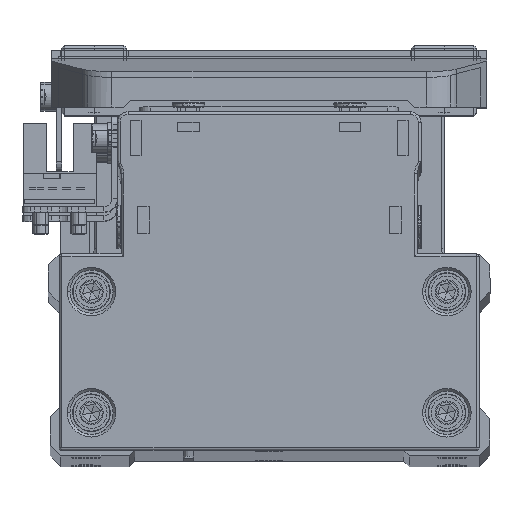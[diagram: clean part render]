
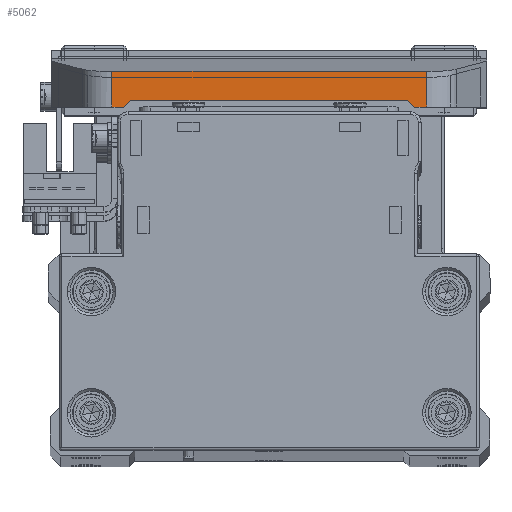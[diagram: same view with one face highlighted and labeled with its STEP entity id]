
A CAD part, top view. The second image highlights one B-rep face of the part: STEP entity #5062.
In plain terms, the highlighted planar face has unit normal (0, 0, 1) as drawn and (-1, 0, 0) by its records, which use the part's own axes.
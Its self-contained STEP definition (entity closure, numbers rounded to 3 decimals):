
#249 = EDGE_CURVE ( 'NONE', #19063, #14408, #1782, .T. ) ;
#1245 = CARTESIAN_POINT ( 'NONE',  ( -67.5, 4., 29.225 ) ) ;
#1666 = VERTEX_POINT ( 'NONE', #17723 ) ;
#1782 = LINE ( 'NONE', #13969, #19602 ) ;
#2081 = VECTOR ( 'NONE', #28735, 1000. ) ;
#2102 = LINE ( 'NONE', #14292, #14177 ) ;
#2899 = CARTESIAN_POINT ( 'NONE',  ( -67.5, 4., -29.225 ) ) ;
#4369 = LINE ( 'NONE', #16549, #2081 ) ;
#4572 = CARTESIAN_POINT ( 'NONE',  ( -67.5, 4., -29.225 ) ) ;
#4576 = EDGE_CURVE ( 'NONE', #1666, #5985, #21783, .T. ) ;
#4934 = VERTEX_POINT ( 'NONE', #36536 ) ;
#4979 = CARTESIAN_POINT ( 'NONE',  ( -67.5, 9.3, 25.5 ) ) ;
#5062 = ADVANCED_FACE ( 'NONE', ( #12770 ), #24950, .F. ) ;
#5168 = DIRECTION ( 'NONE',  ( 0., 0., -1. ) ) ;
#5974 = ORIENTED_EDGE ( 'NONE', *, *, #17529, .F. ) ;
#5985 = VERTEX_POINT ( 'NONE', #21639 ) ;
#6439 = EDGE_LOOP ( 'NONE', ( #38646, #38848, #34826, #38998, #5974, #29826, #8948, #28392 ) ) ;
#6628 = DIRECTION ( 'NONE',  ( 0., 0.655, -0.756 ) ) ;
#8948 = ORIENTED_EDGE ( 'NONE', *, *, #249, .T. ) ;
#9387 = EDGE_CURVE ( 'NONE', #14408, #4934, #4369, .T. ) ;
#9775 = CARTESIAN_POINT ( 'NONE',  ( -67.5, 10.6, 29.225 ) ) ;
#9780 = DIRECTION ( 'NONE',  ( 1., 0., 0. ) ) ;
#10139 = VERTEX_POINT ( 'NONE', #2899 ) ;
#10567 = DIRECTION ( 'NONE',  ( 0., 1., 0. ) ) ;
#11684 = EDGE_CURVE ( 'NONE', #30003, #19063, #25736, .T. ) ;
#12770 = FACE_OUTER_BOUND ( 'NONE', #6439, .T. ) ;
#13592 = EDGE_CURVE ( 'NONE', #5985, #29800, #2102, .T. ) ;
#13969 = CARTESIAN_POINT ( 'NONE',  ( -67.5, 10.6, 40.4 ) ) ;
#14177 = VECTOR ( 'NONE', #26485, 1000. ) ;
#14292 = CARTESIAN_POINT ( 'NONE',  ( -67.5, 10.6, 40.4 ) ) ;
#14408 = VERTEX_POINT ( 'NONE', #17312 ) ;
#16549 = CARTESIAN_POINT ( 'NONE',  ( -67.5, 10.6, 27. ) ) ;
#16763 = DIRECTION ( 'NONE',  ( 0., -1., 0. ) ) ;
#17154 = DIRECTION ( 'NONE',  ( 0., 0., -1. ) ) ;
#17312 = CARTESIAN_POINT ( 'NONE',  ( -67.5, 10.6, 27. ) ) ;
#17529 = EDGE_CURVE ( 'NONE', #30003, #10139, #20346, .T. ) ;
#17723 = CARTESIAN_POINT ( 'NONE',  ( -67.5, 9.3, -25.5 ) ) ;
#18011 = CARTESIAN_POINT ( 'NONE',  ( -67.5, 10.6, -29.225 ) ) ;
#19063 = VERTEX_POINT ( 'NONE', #9775 ) ;
#19602 = VECTOR ( 'NONE', #26146, 1000. ) ;
#20052 = VECTOR ( 'NONE', #6628, 1000. ) ;
#20346 = LINE ( 'NONE', #32549, #30882 ) ;
#21639 = CARTESIAN_POINT ( 'NONE',  ( -67.5, 10.6, -27. ) ) ;
#21775 = VECTOR ( 'NONE', #17154, 1000. ) ;
#21783 = LINE ( 'NONE', #34001, #20052 ) ;
#21946 = DIRECTION ( 'NONE',  ( 0., 0., -1. ) ) ;
#22016 = VECTOR ( 'NONE', #16763, 1000. ) ;
#24950 = PLANE ( 'NONE',  #26481 ) ;
#25736 = LINE ( 'NONE', #37924, #30045 ) ;
#26146 = DIRECTION ( 'NONE',  ( 0., 0., -1. ) ) ;
#26481 = AXIS2_PLACEMENT_3D ( 'NONE', #37125, #9780, #21946 ) ;
#26485 = DIRECTION ( 'NONE',  ( 0., 0., -1. ) ) ;
#26794 = EDGE_CURVE ( 'NONE', #4934, #1666, #32365, .T. ) ;
#28392 = ORIENTED_EDGE ( 'NONE', *, *, #9387, .T. ) ;
#28735 = DIRECTION ( 'NONE',  ( 0., -0.655, -0.756 ) ) ;
#29800 = VERTEX_POINT ( 'NONE', #18011 ) ;
#29826 = ORIENTED_EDGE ( 'NONE', *, *, #11684, .T. ) ;
#30003 = VERTEX_POINT ( 'NONE', #1245 ) ;
#30045 = VECTOR ( 'NONE', #10567, 1000. ) ;
#30882 = VECTOR ( 'NONE', #5168, 1000. ) ;
#31872 = EDGE_CURVE ( 'NONE', #29800, #10139, #31944, .T. ) ;
#31944 = LINE ( 'NONE', #4572, #22016 ) ;
#32365 = LINE ( 'NONE', #4979, #21775 ) ;
#32549 = CARTESIAN_POINT ( 'NONE',  ( -67.5, 4., 40.4 ) ) ;
#34001 = CARTESIAN_POINT ( 'NONE',  ( -67.5, 10.6, -27. ) ) ;
#34826 = ORIENTED_EDGE ( 'NONE', *, *, #13592, .T. ) ;
#36536 = CARTESIAN_POINT ( 'NONE',  ( -67.5, 9.3, 25.5 ) ) ;
#37125 = CARTESIAN_POINT ( 'NONE',  ( -67.5, 10.6, 40.4 ) ) ;
#37924 = CARTESIAN_POINT ( 'NONE',  ( -67.5, 10.6, 29.225 ) ) ;
#38646 = ORIENTED_EDGE ( 'NONE', *, *, #26794, .T. ) ;
#38848 = ORIENTED_EDGE ( 'NONE', *, *, #4576, .T. ) ;
#38998 = ORIENTED_EDGE ( 'NONE', *, *, #31872, .T. ) ;
